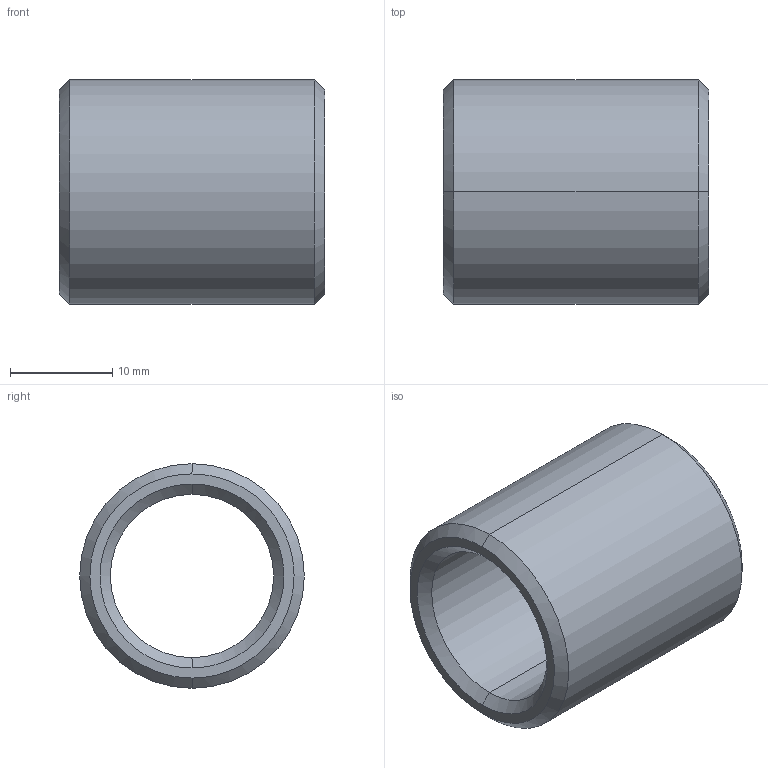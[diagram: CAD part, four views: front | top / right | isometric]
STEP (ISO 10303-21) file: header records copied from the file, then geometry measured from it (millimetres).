
FILE_DESCRIPTION(('CATIA V5 STEP Exchange'),'2;1');
FILE_NAME('C:\Users\Utente\Desktop\IO LAVORO\3D X SITO CF\X SITO\PLASTICA\352\352-16X26.stp','2021-04-10T09:08:27+00:00',('none'),('none'),'CATIA Version 5 Release 20 GA (IN-10)','CATIA V5 STEP AP203','none');
FILE_SCHEMA(('CONFIG_CONTROL_DESIGN'));
Length unit declared in the file: millimetre
Products named in the file (1): 352-16X26
Bounding box: 26 x 22 x 22 mm (x, y, z)
Volume: 4551.6 mm3; surface area: 3329.2 mm2
Topology: 1 solids, 1 shells, 14 faces, 44 edges, 32 vertices
Faces by surface type: cone 6, cylinder 4, plane 2, torus 2
Entity records: 634 total; most frequent: CARTESIAN_POINT 203, ORIENTED_EDGE 88, DIRECTION 64, EDGE_CURVE 44, AXIS2_PLACEMENT_3D 41, VERTEX_POINT 32, CIRCLE 26, EDGE_LOOP 16
